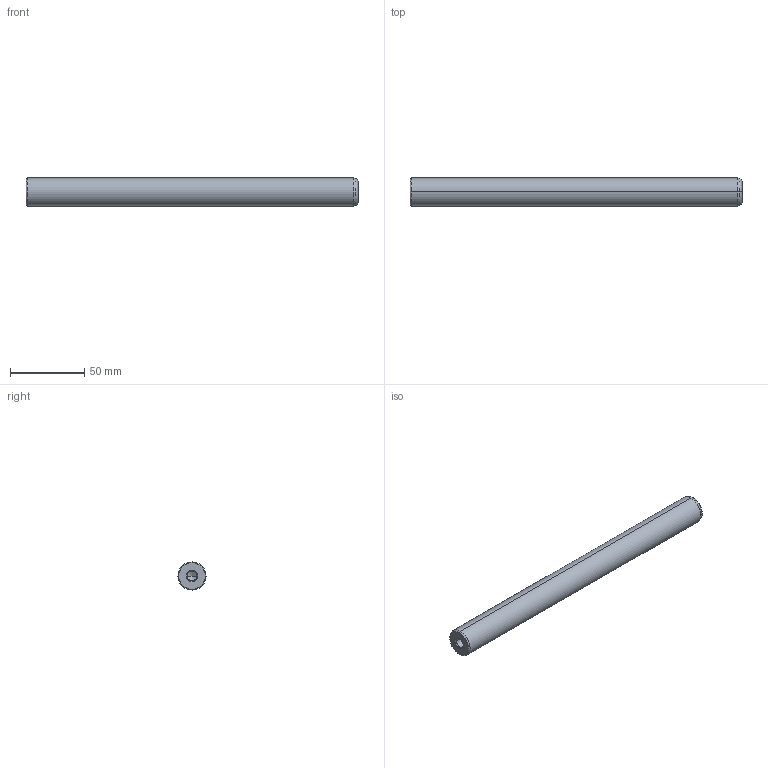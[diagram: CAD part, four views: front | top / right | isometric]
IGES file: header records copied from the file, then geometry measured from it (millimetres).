
Start section: START RECORD GO HERE.
Global section: file name: 720-19x224.igs; native system: DASSAULT SYSTEMES CATIA V5 R20 - www.3ds.com; preprocessor: CATIA Version 5 Release 20 ; author: Utente; organization: NB04-ASUS; date: 20210101.140450; units: millimetre
Bounding box: 224 x 19 x 19 mm (x, y, z)
Surface area: 14835.9 mm2 (no closed solid volume)
Topology: 0 solids, 0 shells, 22 faces, 108 edges, 104 vertices
Faces by surface type: revolution 20, plane 2
